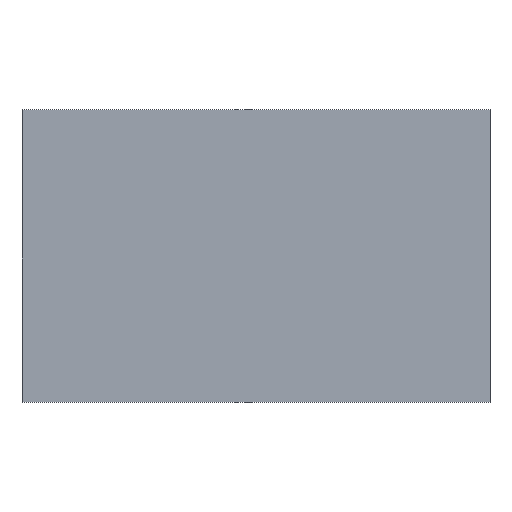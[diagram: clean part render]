
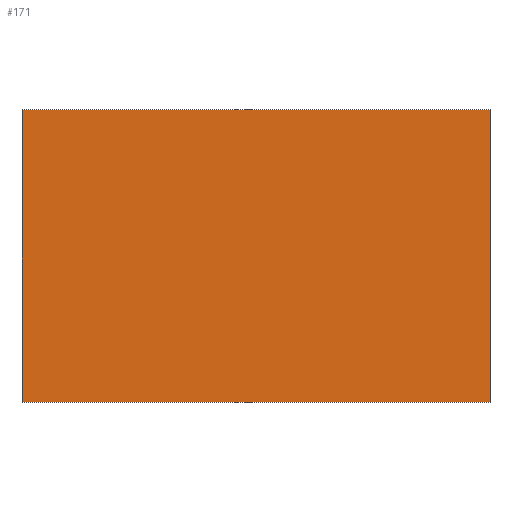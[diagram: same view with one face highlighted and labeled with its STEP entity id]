
A CAD part, top view. The second image highlights one B-rep face of the part: STEP entity #171.
In plain terms, the highlighted planar face has unit normal (0, 0, 1).
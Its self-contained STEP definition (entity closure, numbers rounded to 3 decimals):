
#42 = VERTEX_POINT('',#43);
#43 = CARTESIAN_POINT('',(160.,-100.,1.52));
#49 = EDGE_CURVE('',#42,#50,#52,.T.);
#50 = VERTEX_POINT('',#51);
#51 = CARTESIAN_POINT('',(0.,-100.,1.52));
#52 = LINE('',#53,#54);
#53 = CARTESIAN_POINT('',(160.,-100.,1.52));
#54 = VECTOR('',#55,1.);
#55 = DIRECTION('',(-1.,0.,0.));
#80 = EDGE_CURVE('',#50,#81,#83,.T.);
#81 = VERTEX_POINT('',#82);
#82 = CARTESIAN_POINT('',(0.,0.,1.52));
#83 = LINE('',#84,#85);
#84 = CARTESIAN_POINT('',(0.,-100.,1.52));
#85 = VECTOR('',#86,1.);
#86 = DIRECTION('',(0.,1.,0.));
#111 = EDGE_CURVE('',#81,#112,#114,.T.);
#112 = VERTEX_POINT('',#113);
#113 = CARTESIAN_POINT('',(160.,0.,1.52));
#114 = LINE('',#115,#116);
#115 = CARTESIAN_POINT('',(0.,0.,1.52));
#116 = VECTOR('',#117,1.);
#117 = DIRECTION('',(1.,0.,0.));
#142 = EDGE_CURVE('',#112,#42,#143,.T.);
#143 = LINE('',#144,#145);
#144 = CARTESIAN_POINT('',(160.,0.,1.52));
#145 = VECTOR('',#146,1.);
#146 = DIRECTION('',(0.,-1.,0.));
#171 = ADVANCED_FACE('',(#172),#178,.T.);
#172 = FACE_BOUND('',#173,.F.);
#173 = EDGE_LOOP('',(#174,#175,#176,#177));
#174 = ORIENTED_EDGE('',*,*,#49,.T.);
#175 = ORIENTED_EDGE('',*,*,#80,.T.);
#176 = ORIENTED_EDGE('',*,*,#111,.T.);
#177 = ORIENTED_EDGE('',*,*,#142,.T.);
#178 = PLANE('',#179);
#179 = AXIS2_PLACEMENT_3D('',#180,#181,#182);
#180 = CARTESIAN_POINT('',(0.,0.,1.52));
#181 = DIRECTION('',(0.,0.,1.));
#182 = DIRECTION('',(1.,0.,-0.));
